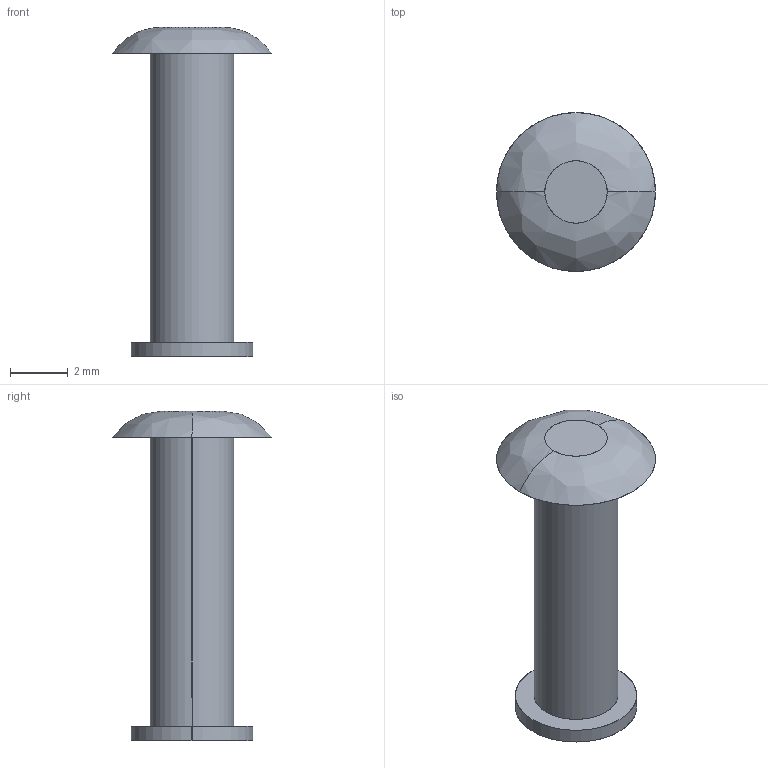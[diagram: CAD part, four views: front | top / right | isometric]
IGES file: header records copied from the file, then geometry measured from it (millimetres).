
Start section: SolidWorks IGES FILE using analytic representation for surfaces
Global section: file name: C:\WINNT\Profiles\cbrechard\Bureau\GE 574\533.300.00.IGS; native system: SolidWorks 2001Plus by SolidWorks Corporation; preprocessor: Version 5.3; author: CBRECHARD; date: 050125.145200; units: millimetre
Bounding box: 5.5 x 5.5 x 11.4 mm (x, y, z)
Surface area: 173.9 mm2 (no closed solid volume)
Topology: 0 solids, 0 shells, 15 faces, 296 edges, 296 vertices
Faces by surface type: bspline 9, revolution 6
